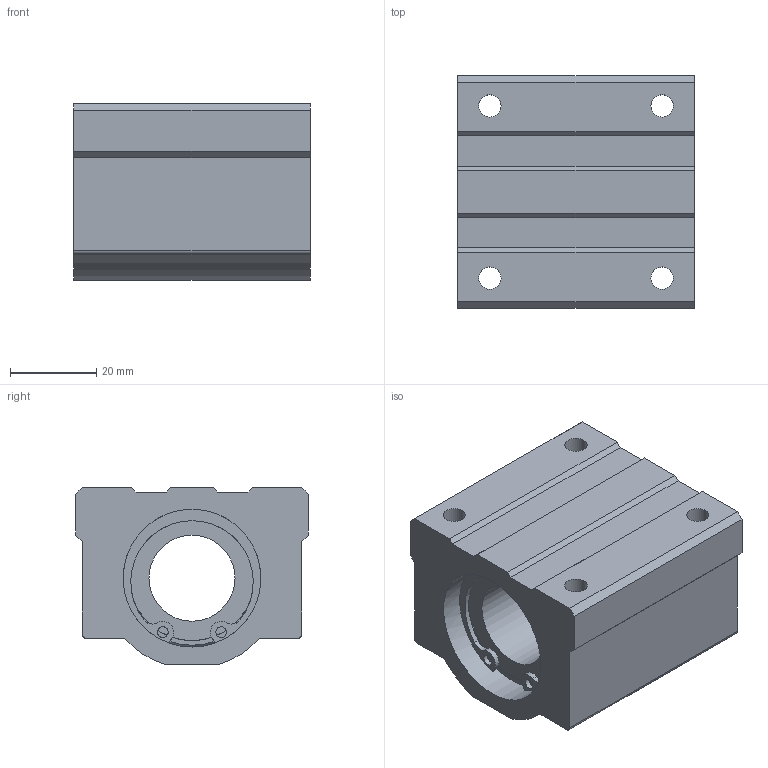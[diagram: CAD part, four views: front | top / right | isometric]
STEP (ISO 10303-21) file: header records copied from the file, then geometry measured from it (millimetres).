
FILE_DESCRIPTION((''),'2;1');
FILE_NAME('D:\製品 (図面)\カタログ用3D\リニアベアリング関連(改)\STEP形式\LH\LH20.stp','2010-01-25T10:16:00',('Tsuchiya'),(''),'Autodesk Inventor 10','Autodesk Inventor 10','');
FILE_SCHEMA(('AUTOMOTIVE_DESIGN { 1 0 10303 214 1 1 1 1 }'));
Length unit declared in the file: millimetre
Products named in the file (1): LH20
Bounding box: 55 x 54 x 41 mm (x, y, z)
Volume: 80397.5 mm3; surface area: 20837.7 mm2
Topology: 1 solids, 3 shells, 85 faces, 235 edges, 150 vertices
Faces by surface type: plane 45, cylinder 20, bspline 18, torus 2
Full cylindrical faces by diameter (mm): 2.5 x2, 20 x1, 29 x2, 30.3 x2, 32 x4
Entity records: 2676 total; most frequent: CARTESIAN_POINT 622, DIRECTION 432, ORIENTED_EDGE 392, EDGE_CURVE 196, AXIS2_PLACEMENT_3D 168, VERTEX_POINT 132, EDGE_LOOP 126, CIRCLE 100
